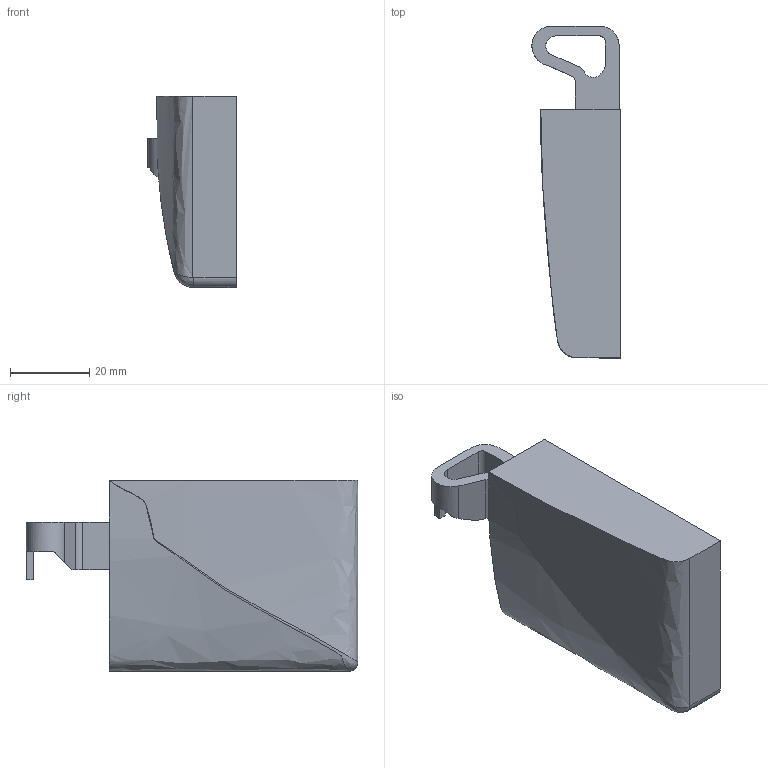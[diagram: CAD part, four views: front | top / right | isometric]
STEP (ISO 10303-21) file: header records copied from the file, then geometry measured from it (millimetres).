
FILE_DESCRIPTION (( 'STEP AP203' ), '1' );
FILE_NAME ('SH-40_rechts_D8401012117~0.step', '2012-05-04T07:15:18', ( 'admin' ), ( 'Hewlett-Packard Company' ), 'SwSTEP 2.0', 'SolidWorks 2011', '' );
FILE_SCHEMA (( 'CONFIG_CONTROL_DESIGN' ));
Length unit declared in the file: millimetre
Products named in the file (1): SH-40_rechts_D8401012117~0
Bounding box: 22.25 x 83.7 x 48.2 mm (x, y, z)
Volume: 54936.1 mm3; surface area: 11277.4 mm2
Topology: 1 solids, 1 shells, 48 faces, 131 edges, 87 vertices
Faces by surface type: plane 29, cylinder 16, bspline 3
Entity records: 3692 total; most frequent: CARTESIAN_POINT 2398, ORIENTED_EDGE 262, DIRECTION 246, EDGE_CURVE 131, VERTEX_POINT 87, LINE 84, VECTOR 84, AXIS2_PLACEMENT_3D 81
